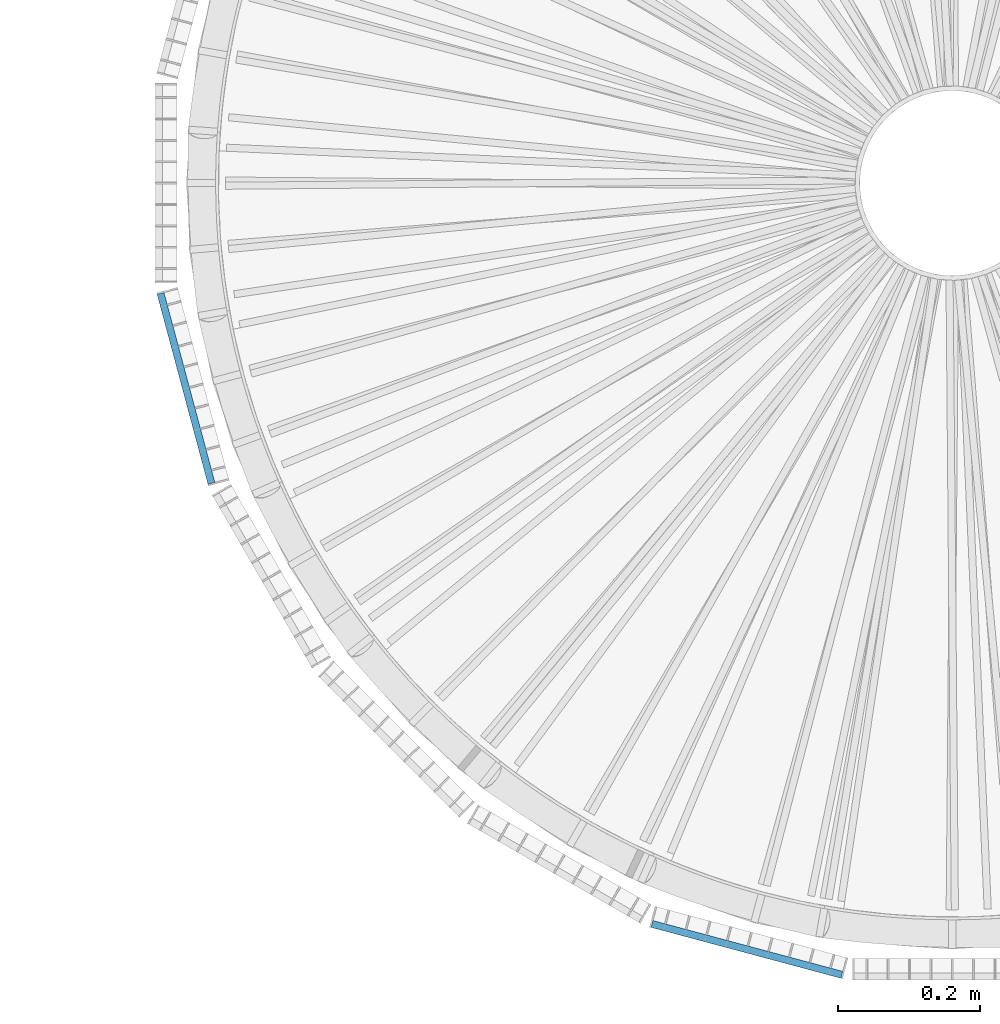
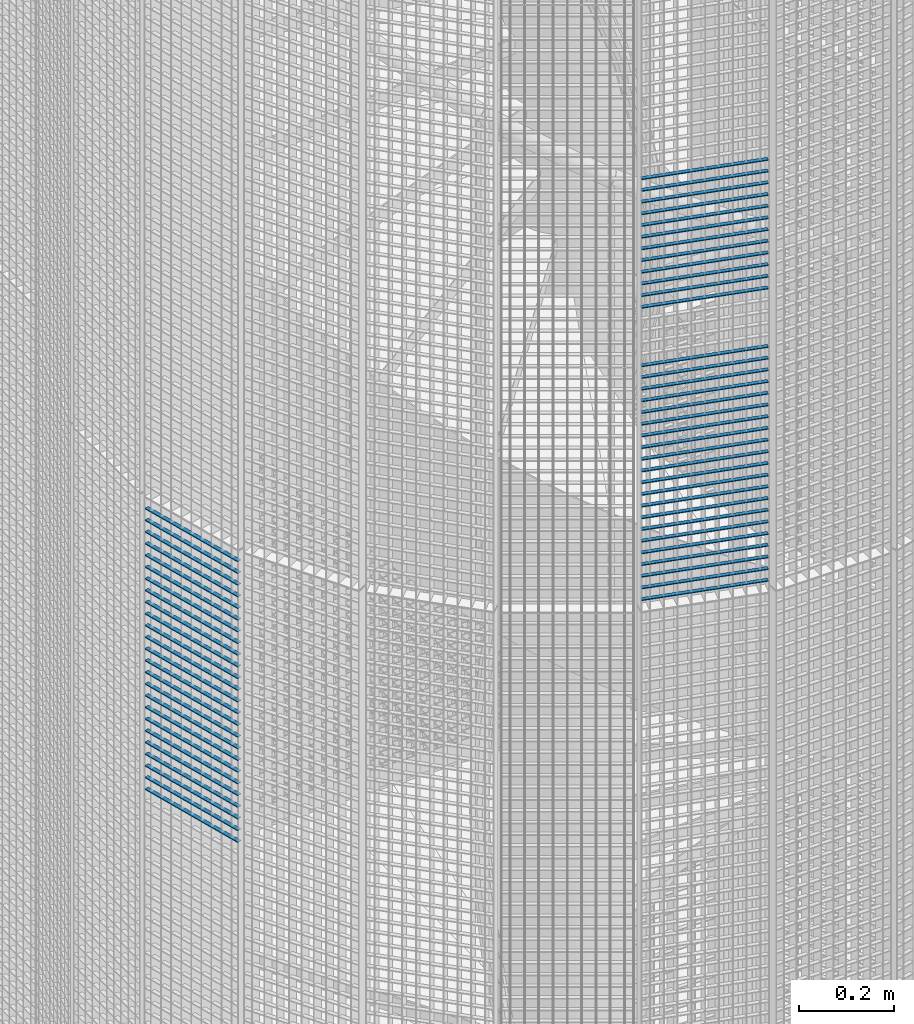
# One storey, part 353 of 1183: 58 beams, 2 elements without a shape of their own.
"""IFC2X3 building model written with IfcOpenShell, lengths in millimetres."""

from ifc_helpers import new_model, si_unit, frame, origin_with_axes, origin_2d_with_axis, place, context, subcontext, project, spatial, rectangle, extrude, material, type_object, element, aggregate, save


model = new_model("IFC2X3")

# Units and contexts
model_context = context("Model", 3, precision=1e-05, world=origin_with_axes())
body_context = subcontext(model_context, "Body", "Model", "MODEL_VIEW")
ifc_project = project(units=[si_unit("LENGTHUNIT", "METRE", prefix="MILLI"), si_unit("AREAUNIT", "SQUARE_METRE"), si_unit("VOLUMEUNIT", "CUBIC_METRE"), si_unit("MASSUNIT", "GRAM", prefix="KILO"), si_unit("TIMEUNIT", "SECOND"), si_unit("PLANEANGLEUNIT", "RADIAN"), si_unit("SOLIDANGLEUNIT", "STERADIAN"), si_unit("THERMODYNAMICTEMPERATUREUNIT", "DEGREE_CELSIUS"), si_unit("LUMINOUSINTENSITYUNIT", "LUMEN")], contexts=[model_context])

# Site, building, storey
site_placement = place(None, origin_with_axes())
site = spatial("IfcSite", under=ifc_project, at=site_placement, Name="Undefined", CompositionType="ELEMENT")
building_placement = place(site_placement, origin_with_axes())
building = spatial("IfcBuilding", under=site, at=building_placement, Name="Undefined", CompositionType="ELEMENT")
storey_placement = place(building_placement, origin_with_axes())
storey = spatial("IfcBuildingStorey", under=building, at=storey_placement, Name="Undefined", CompositionType="ELEMENT", Elevation=0.0)

# Assembly, beams
assembly_1_placement = place(storey_placement, origin_with_axes())
assembly_1 = element("IfcElementAssembly", 1, at=assembly_1_placement, inside=storey, Name="BORDURE", AssemblyPlace="NOTDEFINED", PredefinedType="NOTDEFINED")
ifc_material = material(Name="STEEL/S235JR")
beam_type = type_object("IfcBeamType", Name="PL2*10", PredefinedType="NOTDEFINED")
beam_1_placement = place(assembly_1_placement, frame((21445.1040732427, -1111.25508286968, 12630.0), z_axis=(-0.258819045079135, -0.965925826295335, 0.0), x_axis=(-0.965925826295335, 0.258819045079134, 0.0)))
beam_1 = element("IfcBeam", 2, at=beam_1_placement, type_object=beam_type, material=ifc_material, Name="ENTRETOISE", context=body_context, shape_type="SweptSolid", body=[
    extrude(rectangle(XDim=2.0, YDim=10.0, at=origin_2d_with_axis()), frame((275.999999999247, 9.09494701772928e-13, 1.53210777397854e-14), z_axis=(-1.0, 0.0, 0.0), x_axis=(0.0, -1.0, 0.0)), (0.0, 0.0, 1.0), 276.0),
])
beam_2_placement = place(assembly_1_placement, frame((21445.1040732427, -1111.25508286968, 12780.0), z_axis=(-0.258819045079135, -0.965925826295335, 0.0), x_axis=(-0.965925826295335, 0.258819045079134, 0.0)))
beam_2 = element("IfcBeam", 3, at=beam_2_placement, type_object=beam_type, material=ifc_material, Name="ENTRETOISE", context=body_context, shape_type="SweptSolid", body=[
    extrude(rectangle(XDim=2.0, YDim=10.0, at=origin_2d_with_axis()), frame((275.999999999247, 9.09494701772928e-13, 1.53210777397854e-14), z_axis=(-1.0, 0.0, 0.0), x_axis=(0.0, -1.0, 0.0)), (0.0, 0.0, 1.0), 276.0),
])
beam_3_placement = place(assembly_1_placement, frame((21445.1040732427, -1111.25508286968, 12600.0), z_axis=(-0.258819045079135, -0.965925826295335, 0.0), x_axis=(-0.965925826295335, 0.258819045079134, 0.0)))
beam_3 = element("IfcBeam", 4, at=beam_3_placement, type_object=beam_type, material=ifc_material, Name="ENTRETOISE", context=body_context, shape_type="SweptSolid", body=[
    extrude(rectangle(XDim=2.0, YDim=10.0, at=origin_2d_with_axis()), frame((275.999999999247, 9.09494701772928e-13, 1.53210777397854e-14), z_axis=(-1.0, 0.0, 0.0), x_axis=(0.0, -1.0, 0.0)), (0.0, 0.0, 1.0), 276.0),
])
beam_4_placement = place(assembly_1_placement, frame((21445.1040732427, -1111.25508286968, 12810.0), z_axis=(-0.258819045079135, -0.965925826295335, 0.0), x_axis=(-0.965925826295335, 0.258819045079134, 0.0)))
beam_4 = element("IfcBeam", 5, at=beam_4_placement, type_object=beam_type, material=ifc_material, Name="ENTRETOISE", context=body_context, shape_type="SweptSolid", body=[
    extrude(rectangle(XDim=2.0, YDim=10.0, at=origin_2d_with_axis()), frame((275.999999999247, 9.09494701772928e-13, 1.53210777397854e-14), z_axis=(-1.0, 0.0, 0.0), x_axis=(0.0, -1.0, 0.0)), (0.0, 0.0, 1.0), 276.0),
])
beam_5_placement = place(assembly_1_placement, frame((21445.1040732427, -1111.25508286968, 12570.0), z_axis=(-0.258819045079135, -0.965925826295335, 0.0), x_axis=(-0.965925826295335, 0.258819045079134, 0.0)))
beam_5 = element("IfcBeam", 6, at=beam_5_placement, type_object=beam_type, material=ifc_material, Name="ENTRETOISE", context=body_context, shape_type="SweptSolid", body=[
    extrude(rectangle(XDim=2.0, YDim=10.0, at=origin_2d_with_axis()), frame((275.999999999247, 9.09494701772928e-13, 1.53210777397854e-14), z_axis=(-1.0, 0.0, 0.0), x_axis=(0.0, -1.0, 0.0)), (0.0, 0.0, 1.0), 276.0),
])
beam_6_placement = place(assembly_1_placement, frame((21445.1040732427, -1111.25508286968, 12540.0), z_axis=(-0.258819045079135, -0.965925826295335, 0.0), x_axis=(-0.965925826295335, 0.258819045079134, 0.0)))
beam_6 = element("IfcBeam", 7, at=beam_6_placement, type_object=beam_type, material=ifc_material, Name="ENTRETOISE", context=body_context, shape_type="SweptSolid", body=[
    extrude(rectangle(XDim=2.0, YDim=10.0, at=origin_2d_with_axis()), frame((275.999999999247, 9.09494701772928e-13, 1.53210777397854e-14), z_axis=(-1.0, 0.0, 0.0), x_axis=(0.0, -1.0, 0.0)), (0.0, 0.0, 1.0), 276.0),
])
beam_7_placement = place(assembly_1_placement, frame((21445.1040732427, -1111.25508286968, 12840.0), z_axis=(-0.258819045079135, -0.965925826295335, 0.0), x_axis=(-0.965925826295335, 0.258819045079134, 0.0)))
beam_7 = element("IfcBeam", 8, at=beam_7_placement, type_object=beam_type, material=ifc_material, Name="ENTRETOISE", context=body_context, shape_type="SweptSolid", body=[
    extrude(rectangle(XDim=2.0, YDim=10.0, at=origin_2d_with_axis()), frame((275.999999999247, 9.09494701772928e-13, 1.53210777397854e-14), z_axis=(-1.0, 0.0, 0.0), x_axis=(0.0, -1.0, 0.0)), (0.0, 0.0, 1.0), 276.0),
])
beam_8_placement = place(assembly_1_placement, frame((21445.1040732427, -1111.25508286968, 12510.0), z_axis=(-0.258819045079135, -0.965925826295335, 0.0), x_axis=(-0.965925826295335, 0.258819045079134, 0.0)))
beam_8 = element("IfcBeam", 9, at=beam_8_placement, type_object=beam_type, material=ifc_material, Name="ENTRETOISE", context=body_context, shape_type="SweptSolid", body=[
    extrude(rectangle(XDim=2.0, YDim=10.0, at=origin_2d_with_axis()), frame((275.999999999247, 9.09494701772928e-13, 1.53210777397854e-14), z_axis=(-1.0, 0.0, 0.0), x_axis=(0.0, -1.0, 0.0)), (0.0, 0.0, 1.0), 276.0),
])
beam_9_placement = place(assembly_1_placement, frame((21445.1040732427, -1111.25508286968, 12480.0), z_axis=(-0.258819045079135, -0.965925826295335, 0.0), x_axis=(-0.965925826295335, 0.258819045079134, 0.0)))
beam_9 = element("IfcBeam", 10, at=beam_9_placement, type_object=beam_type, material=ifc_material, Name="ENTRETOISE", context=body_context, shape_type="SweptSolid", body=[
    extrude(rectangle(XDim=2.0, YDim=10.0, at=origin_2d_with_axis()), frame((275.999999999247, 9.09494701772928e-13, 1.53210777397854e-14), z_axis=(-1.0, 0.0, 0.0), x_axis=(0.0, -1.0, 0.0)), (0.0, 0.0, 1.0), 276.0),
])
beam_10_placement = place(assembly_1_placement, frame((21445.1040732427, -1111.25508286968, 12870.0), z_axis=(-0.258819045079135, -0.965925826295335, 0.0), x_axis=(-0.965925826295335, 0.258819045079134, 0.0)))
beam_10 = element("IfcBeam", 11, at=beam_10_placement, type_object=beam_type, material=ifc_material, Name="ENTRETOISE", context=body_context, shape_type="SweptSolid", body=[
    extrude(rectangle(XDim=2.0, YDim=10.0, at=origin_2d_with_axis()), frame((275.999999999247, 9.09494701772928e-13, 1.53210777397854e-14), z_axis=(-1.0, 0.0, 0.0), x_axis=(0.0, -1.0, 0.0)), (0.0, 0.0, 1.0), 276.0),
])
beam_11_placement = place(assembly_1_placement, frame((21445.1040732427, -1111.25508286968, 12450.0), z_axis=(-0.258819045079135, -0.965925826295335, 0.0), x_axis=(-0.965925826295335, 0.258819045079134, 0.0)))
beam_11 = element("IfcBeam", 12, at=beam_11_placement, type_object=beam_type, material=ifc_material, Name="ENTRETOISE", context=body_context, shape_type="SweptSolid", body=[
    extrude(rectangle(XDim=2.0, YDim=10.0, at=origin_2d_with_axis()), frame((275.999999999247, 9.09494701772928e-13, 1.53210777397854e-14), z_axis=(-1.0, 0.0, 0.0), x_axis=(0.0, -1.0, 0.0)), (0.0, 0.0, 1.0), 276.0),
])
beam_12_placement = place(assembly_1_placement, frame((21445.1040732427, -1111.25508286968, 12420.0), z_axis=(-0.258819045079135, -0.965925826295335, 0.0), x_axis=(-0.965925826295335, 0.258819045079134, 0.0)))
beam_12 = element("IfcBeam", 13, at=beam_12_placement, type_object=beam_type, material=ifc_material, Name="ENTRETOISE", context=body_context, shape_type="SweptSolid", body=[
    extrude(rectangle(XDim=2.0, YDim=10.0, at=origin_2d_with_axis()), frame((275.999999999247, 9.09494701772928e-13, 1.53210777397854e-14), z_axis=(-1.0, 0.0, 0.0), x_axis=(0.0, -1.0, 0.0)), (0.0, 0.0, 1.0), 276.0),
])
beam_13_placement = place(assembly_1_placement, frame((21445.1040732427, -1111.25508286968, 12900.0), z_axis=(-0.258819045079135, -0.965925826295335, 0.0), x_axis=(-0.965925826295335, 0.258819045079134, 0.0)))
beam_13 = element("IfcBeam", 14, at=beam_13_placement, type_object=beam_type, material=ifc_material, Name="ENTRETOISE", context=body_context, shape_type="SweptSolid", body=[
    extrude(rectangle(XDim=2.0, YDim=10.0, at=origin_2d_with_axis()), frame((275.999999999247, 9.09494701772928e-13, 1.53210777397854e-14), z_axis=(-1.0, 0.0, 0.0), x_axis=(0.0, -1.0, 0.0)), (0.0, 0.0, 1.0), 276.0),
])
beam_14_placement = place(assembly_1_placement, frame((21445.1040732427, -1111.25508286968, 12390.0), z_axis=(-0.258819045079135, -0.965925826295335, 0.0), x_axis=(-0.965925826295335, 0.258819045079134, 0.0)))
beam_14 = element("IfcBeam", 15, at=beam_14_placement, type_object=beam_type, material=ifc_material, Name="ENTRETOISE", context=body_context, shape_type="SweptSolid", body=[
    extrude(rectangle(XDim=2.0, YDim=10.0, at=origin_2d_with_axis()), frame((275.999999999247, 9.09494701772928e-13, 1.53210777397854e-14), z_axis=(-1.0, 0.0, 0.0), x_axis=(0.0, -1.0, 0.0)), (0.0, 0.0, 1.0), 276.0),
])
beam_15_placement = place(assembly_1_placement, frame((21445.1040732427, -1111.25508286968, 12930.0), z_axis=(-0.258819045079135, -0.965925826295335, 0.0), x_axis=(-0.965925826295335, 0.258819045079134, 0.0)))
beam_15 = element("IfcBeam", 16, at=beam_15_placement, type_object=beam_type, material=ifc_material, Name="ENTRETOISE", context=body_context, shape_type="SweptSolid", body=[
    extrude(rectangle(XDim=2.0, YDim=10.0, at=origin_2d_with_axis()), frame((275.999999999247, 9.09494701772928e-13, 1.53210777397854e-14), z_axis=(-1.0, 0.0, 0.0), x_axis=(0.0, -1.0, 0.0)), (0.0, 0.0, 1.0), 276.0),
])
beam_16_placement = place(assembly_1_placement, frame((21445.1040732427, -1111.25508286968, 12360.0), z_axis=(-0.258819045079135, -0.965925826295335, 0.0), x_axis=(-0.965925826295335, 0.258819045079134, 0.0)))
beam_16 = element("IfcBeam", 17, at=beam_16_placement, type_object=beam_type, material=ifc_material, Name="ENTRETOISE", context=body_context, shape_type="SweptSolid", body=[
    extrude(rectangle(XDim=2.0, YDim=10.0, at=origin_2d_with_axis()), frame((275.999999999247, 9.09494701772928e-13, 1.53210777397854e-14), z_axis=(-1.0, 0.0, 0.0), x_axis=(0.0, -1.0, 0.0)), (0.0, 0.0, 1.0), 276.0),
])
beam_17_placement = place(assembly_1_placement, frame((21445.1040732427, -1111.25508286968, 12330.0), z_axis=(-0.258819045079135, -0.965925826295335, 0.0), x_axis=(-0.965925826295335, 0.258819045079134, 0.0)))
beam_17 = element("IfcBeam", 18, at=beam_17_placement, type_object=beam_type, material=ifc_material, Name="ENTRETOISE", context=body_context, shape_type="SweptSolid", body=[
    extrude(rectangle(XDim=2.0, YDim=10.0, at=origin_2d_with_axis()), frame((275.999999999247, 9.09494701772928e-13, 1.53210777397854e-14), z_axis=(-1.0, 0.0, 0.0), x_axis=(0.0, -1.0, 0.0)), (0.0, 0.0, 1.0), 276.0),
])
beam_18_placement = place(assembly_1_placement, frame((21445.1040732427, -1111.25508286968, 12960.0), z_axis=(-0.258819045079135, -0.965925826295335, 0.0), x_axis=(-0.965925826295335, 0.258819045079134, 0.0)))
beam_18 = element("IfcBeam", 19, at=beam_18_placement, type_object=beam_type, material=ifc_material, Name="ENTRETOISE", context=body_context, shape_type="SweptSolid", body=[
    extrude(rectangle(XDim=2.0, YDim=10.0, at=origin_2d_with_axis()), frame((275.999999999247, 9.09494701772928e-13, 1.53210777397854e-14), z_axis=(-1.0, 0.0, 0.0), x_axis=(0.0, -1.0, 0.0)), (0.0, 0.0, 1.0), 276.0),
])
beam_19_placement = place(assembly_1_placement, frame((21445.1040732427, -1111.25508286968, 12300.0), z_axis=(-0.258819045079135, -0.965925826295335, 0.0), x_axis=(-0.965925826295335, 0.258819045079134, 0.0)))
beam_19 = element("IfcBeam", 20, at=beam_19_placement, type_object=beam_type, material=ifc_material, Name="ENTRETOISE", context=body_context, shape_type="SweptSolid", body=[
    extrude(rectangle(XDim=2.0, YDim=10.0, at=origin_2d_with_axis()), frame((275.999999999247, 9.09494701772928e-13, 1.53210777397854e-14), z_axis=(-1.0, 0.0, 0.0), x_axis=(0.0, -1.0, 0.0)), (0.0, 0.0, 1.0), 276.0),
])
beam_20_placement = place(assembly_1_placement, frame((21445.1040732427, -1111.25508286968, 12270.0), z_axis=(-0.258819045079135, -0.965925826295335, 0.0), x_axis=(-0.965925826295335, 0.258819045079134, 0.0)))
beam_20 = element("IfcBeam", 21, at=beam_20_placement, type_object=beam_type, material=ifc_material, Name="ENTRETOISE", context=body_context, shape_type="SweptSolid", body=[
    extrude(rectangle(XDim=2.0, YDim=10.0, at=origin_2d_with_axis()), frame((275.999999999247, 9.09494701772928e-13, 1.53210777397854e-14), z_axis=(-1.0, 0.0, 0.0), x_axis=(0.0, -1.0, 0.0)), (0.0, 0.0, 1.0), 276.0),
])
beam_21_placement = place(assembly_1_placement, frame((21445.1040732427, -1111.25508286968, 12990.0), z_axis=(-0.258819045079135, -0.965925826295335, 0.0), x_axis=(-0.965925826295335, 0.258819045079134, 0.0)))
beam_21 = element("IfcBeam", 22, at=beam_21_placement, type_object=beam_type, material=ifc_material, Name="ENTRETOISE", context=body_context, shape_type="SweptSolid", body=[
    extrude(rectangle(XDim=2.0, YDim=10.0, at=origin_2d_with_axis()), frame((275.999999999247, 9.09494701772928e-13, 1.53210777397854e-14), z_axis=(-1.0, 0.0, 0.0), x_axis=(0.0, -1.0, 0.0)), (0.0, 0.0, 1.0), 276.0),
])
beam_22_placement = place(assembly_1_placement, frame((21445.1040732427, -1111.25508286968, 12240.0), z_axis=(-0.258819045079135, -0.965925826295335, 0.0), x_axis=(-0.965925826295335, 0.258819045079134, 0.0)))
beam_22 = element("IfcBeam", 23, at=beam_22_placement, type_object=beam_type, material=ifc_material, Name="ENTRETOISE", context=body_context, shape_type="SweptSolid", body=[
    extrude(rectangle(XDim=2.0, YDim=10.0, at=origin_2d_with_axis()), frame((275.999999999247, 9.09494701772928e-13, 1.53210777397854e-14), z_axis=(-1.0, 0.0, 0.0), x_axis=(0.0, -1.0, 0.0)), (0.0, 0.0, 1.0), 276.0),
])
beam_23_placement = place(assembly_1_placement, frame((21445.1040732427, -1111.25508286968, 13020.0), z_axis=(-0.258819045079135, -0.965925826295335, 0.0), x_axis=(-0.965925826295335, 0.258819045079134, 0.0)))
beam_23 = element("IfcBeam", 24, at=beam_23_placement, type_object=beam_type, material=ifc_material, Name="ENTRETOISE", context=body_context, shape_type="SweptSolid", body=[
    extrude(rectangle(XDim=2.0, YDim=10.0, at=origin_2d_with_axis()), frame((275.999999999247, 9.09494701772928e-13, 1.53210777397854e-14), z_axis=(-1.0, 0.0, 0.0), x_axis=(0.0, -1.0, 0.0)), (0.0, 0.0, 1.0), 276.0),
])
beam_24_placement = place(assembly_1_placement, frame((21445.1040732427, -1111.25508286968, 12210.0), z_axis=(-0.258819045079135, -0.965925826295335, 0.0), x_axis=(-0.965925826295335, 0.258819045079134, 0.0)))
beam_24 = element("IfcBeam", 25, at=beam_24_placement, type_object=beam_type, material=ifc_material, Name="ENTRETOISE", context=body_context, shape_type="SweptSolid", body=[
    extrude(rectangle(XDim=2.0, YDim=10.0, at=origin_2d_with_axis()), frame((275.999999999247, 9.09494701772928e-13, 1.53210777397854e-14), z_axis=(-1.0, 0.0, 0.0), x_axis=(0.0, -1.0, 0.0)), (0.0, 0.0, 1.0), 276.0),
])
beam_25_placement = place(assembly_1_placement, frame((21445.1040732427, -1111.25508286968, 12180.0), z_axis=(-0.258819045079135, -0.965925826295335, 0.0), x_axis=(-0.965925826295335, 0.258819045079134, 0.0)))
beam_25 = element("IfcBeam", 26, at=beam_25_placement, type_object=beam_type, material=ifc_material, Name="ENTRETOISE", context=body_context, shape_type="SweptSolid", body=[
    extrude(rectangle(XDim=2.0, YDim=10.0, at=origin_2d_with_axis()), frame((275.999999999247, 9.09494701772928e-13, 1.53210777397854e-14), z_axis=(-1.0, 0.0, 0.0), x_axis=(0.0, -1.0, 0.0)), (0.0, 0.0, 1.0), 276.0),
])
beam_26_placement = place(assembly_1_placement, frame((21445.1040732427, -1111.25508286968, 13050.0), z_axis=(-0.258819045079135, -0.965925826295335, 0.0), x_axis=(-0.965925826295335, 0.258819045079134, 0.0)))
beam_26 = element("IfcBeam", 27, at=beam_26_placement, type_object=beam_type, material=ifc_material, Name="ENTRETOISE", context=body_context, shape_type="SweptSolid", body=[
    extrude(rectangle(XDim=2.0, YDim=10.0, at=origin_2d_with_axis()), frame((275.999999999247, 9.09494701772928e-13, 1.53210777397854e-14), z_axis=(-1.0, 0.0, 0.0), x_axis=(0.0, -1.0, 0.0)), (0.0, 0.0, 1.0), 276.0),
])
beam_27_placement = place(assembly_1_placement, frame((21445.1040732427, -1111.25508286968, 12150.0), z_axis=(-0.258819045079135, -0.965925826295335, 0.0), x_axis=(-0.965925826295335, 0.258819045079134, 0.0)))
beam_27 = element("IfcBeam", 28, at=beam_27_placement, type_object=beam_type, material=ifc_material, Name="ENTRETOISE", context=body_context, shape_type="SweptSolid", body=[
    extrude(rectangle(XDim=2.0, YDim=10.0, at=origin_2d_with_axis()), frame((275.999999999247, 9.09494701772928e-13, 1.53210777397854e-14), z_axis=(-1.0, 0.0, 0.0), x_axis=(0.0, -1.0, 0.0)), (0.0, 0.0, 1.0), 276.0),
])
beam_28_placement = place(assembly_1_placement, frame((21445.1040732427, -1111.25508286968, 12120.0), z_axis=(-0.258819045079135, -0.965925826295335, 0.0), x_axis=(-0.965925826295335, 0.258819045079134, 0.0)))
beam_28 = element("IfcBeam", 29, at=beam_28_placement, type_object=beam_type, material=ifc_material, Name="ENTRETOISE", context=body_context, shape_type="SweptSolid", body=[
    extrude(rectangle(XDim=2.0, YDim=10.0, at=origin_2d_with_axis()), frame((275.999999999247, 9.09494701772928e-13, 1.53210777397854e-14), z_axis=(-1.0, 0.0, 0.0), x_axis=(0.0, -1.0, 0.0)), (0.0, 0.0, 1.0), 276.0),
])
beam_29_placement = place(assembly_1_placement, frame((21445.1040732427, -1111.25508286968, 13080.0), z_axis=(-0.258819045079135, -0.965925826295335, 0.0), x_axis=(-0.965925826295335, 0.258819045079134, 0.0)))
beam_29 = element("IfcBeam", 30, at=beam_29_placement, type_object=beam_type, material=ifc_material, Name="ENTRETOISE", context=body_context, shape_type="SweptSolid", body=[
    extrude(rectangle(XDim=2.0, YDim=10.0, at=origin_2d_with_axis()), frame((275.999999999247, 9.09494701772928e-13, 1.53210777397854e-14), z_axis=(-1.0, 0.0, 0.0), x_axis=(0.0, -1.0, 0.0)), (0.0, 0.0, 1.0), 276.0),
])
beam_30_placement = place(assembly_1_placement, frame((21445.1040732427, -1111.25508286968, 12090.0), z_axis=(-0.258819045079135, -0.965925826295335, 0.0), x_axis=(-0.965925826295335, 0.258819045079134, 0.0)))
beam_30 = element("IfcBeam", 31, at=beam_30_placement, type_object=beam_type, material=ifc_material, Name="ENTRETOISE", context=body_context, shape_type="SweptSolid", body=[
    extrude(rectangle(XDim=2.0, YDim=10.0, at=origin_2d_with_axis()), frame((275.999999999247, 9.09494701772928e-13, 1.53210777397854e-14), z_axis=(-1.0, 0.0, 0.0), x_axis=(0.0, -1.0, 0.0)), (0.0, 0.0, 1.0), 276.0),
])
beam_31_placement = place(assembly_1_placement, frame((21445.1040732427, -1111.25508286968, 12060.0), z_axis=(-0.258819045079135, -0.965925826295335, 0.0), x_axis=(-0.965925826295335, 0.258819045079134, 0.0)))
beam_31 = element("IfcBeam", 32, at=beam_31_placement, type_object=beam_type, material=ifc_material, Name="ENTRETOISE", context=body_context, shape_type="SweptSolid", body=[
    extrude(rectangle(XDim=2.0, YDim=10.0, at=origin_2d_with_axis()), frame((275.999999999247, 9.09494701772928e-13, 1.53210777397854e-14), z_axis=(-1.0, 0.0, 0.0), x_axis=(0.0, -1.0, 0.0)), (0.0, 0.0, 1.0), 276.0),
])
beam_32_placement = place(assembly_1_placement, frame((21445.1040732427, -1111.25508286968, 13110.0), z_axis=(-0.258819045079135, -0.965925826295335, 0.0), x_axis=(-0.965925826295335, 0.258819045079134, 0.0)))
beam_32 = element("IfcBeam", 33, at=beam_32_placement, type_object=beam_type, material=ifc_material, Name="ENTRETOISE", context=body_context, shape_type="SweptSolid", body=[
    extrude(rectangle(XDim=2.0, YDim=10.0, at=origin_2d_with_axis()), frame((275.999999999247, 9.09494701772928e-13, 1.53210777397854e-14), z_axis=(-1.0, 0.0, 0.0), x_axis=(0.0, -1.0, 0.0)), (0.0, 0.0, 1.0), 276.0),
])
beam_33_placement = place(assembly_1_placement, frame((21445.1040732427, -1111.25508286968, 12030.0), z_axis=(-0.258819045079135, -0.965925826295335, 0.0), x_axis=(-0.965925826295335, 0.258819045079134, 0.0)))
beam_33 = element("IfcBeam", 34, at=beam_33_placement, type_object=beam_type, material=ifc_material, Name="ENTRETOISE", context=body_context, shape_type="SweptSolid", body=[
    extrude(rectangle(XDim=2.0, YDim=10.0, at=origin_2d_with_axis()), frame((275.999999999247, 9.09494701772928e-13, 1.53210777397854e-14), z_axis=(-1.0, 0.0, 0.0), x_axis=(0.0, -1.0, 0.0)), (0.0, 0.0, 1.0), 276.0),
])
aggregate(assembly_1, [beam_1, beam_2, beam_3, beam_4, beam_5, beam_6, beam_7, beam_8, beam_9, beam_10, beam_11, beam_12, beam_13, beam_14, beam_15, beam_16, beam_17, beam_18, beam_19, beam_20, beam_21, beam_22, beam_23, beam_24, beam_25, beam_26, beam_27, beam_28, beam_29, beam_30, beam_31, beam_32, beam_33])

assembly_2_placement = place(storey_placement, origin_with_axes())
assembly_2 = element("IfcElementAssembly", 35, at=assembly_2_placement, inside=storey, Name="BORDURE", AssemblyPlace="NOTDEFINED", PredefinedType="NOTDEFINED")
beam_34_placement = place(assembly_2_placement, frame((20560.1769047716, -421.483733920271, 11970.0), z_axis=(-0.965925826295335, -0.258819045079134, 0.0), x_axis=(-0.258819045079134, 0.965925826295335, 0.0)))
beam_34 = element("IfcBeam", 36, at=beam_34_placement, type_object=beam_type, material=ifc_material, Name="ENTRETOISE", context=body_context, shape_type="SweptSolid", body=[
    extrude(rectangle(XDim=2.0, YDim=10.0, at=origin_2d_with_axis()), frame((275.999999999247, 9.09494701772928e-13, 1.53210777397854e-14), z_axis=(-1.0, 0.0, 0.0), x_axis=(0.0, -1.0, 0.0)), (0.0, 0.0, 1.0), 276.0),
])
beam_35_placement = place(assembly_2_placement, frame((20560.1769047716, -421.483733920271, 11940.0), z_axis=(-0.965925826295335, -0.258819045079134, 0.0), x_axis=(-0.258819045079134, 0.965925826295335, 0.0)))
beam_35 = element("IfcBeam", 37, at=beam_35_placement, type_object=beam_type, material=ifc_material, Name="ENTRETOISE", context=body_context, shape_type="SweptSolid", body=[
    extrude(rectangle(XDim=2.0, YDim=10.0, at=origin_2d_with_axis()), frame((275.999999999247, 9.09494701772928e-13, 1.53210777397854e-14), z_axis=(-1.0, 0.0, 0.0), x_axis=(0.0, -1.0, 0.0)), (0.0, 0.0, 1.0), 276.0),
])
beam_36_placement = place(assembly_2_placement, frame((20560.1769047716, -421.483733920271, 11910.0), z_axis=(-0.965925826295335, -0.258819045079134, 0.0), x_axis=(-0.258819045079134, 0.965925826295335, 0.0)))
beam_36 = element("IfcBeam", 38, at=beam_36_placement, type_object=beam_type, material=ifc_material, Name="ENTRETOISE", context=body_context, shape_type="SweptSolid", body=[
    extrude(rectangle(XDim=2.0, YDim=10.0, at=origin_2d_with_axis()), frame((275.999999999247, 9.09494701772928e-13, 1.53210777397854e-14), z_axis=(-1.0, 0.0, 0.0), x_axis=(0.0, -1.0, 0.0)), (0.0, 0.0, 1.0), 276.0),
])
beam_37_placement = place(assembly_2_placement, frame((20560.1769047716, -421.483733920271, 11880.0), z_axis=(-0.965925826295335, -0.258819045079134, 0.0), x_axis=(-0.258819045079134, 0.965925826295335, 0.0)))
beam_37 = element("IfcBeam", 39, at=beam_37_placement, type_object=beam_type, material=ifc_material, Name="ENTRETOISE", context=body_context, shape_type="SweptSolid", body=[
    extrude(rectangle(XDim=2.0, YDim=10.0, at=origin_2d_with_axis()), frame((275.999999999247, 9.09494701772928e-13, 1.53210777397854e-14), z_axis=(-1.0, 0.0, 0.0), x_axis=(0.0, -1.0, 0.0)), (0.0, 0.0, 1.0), 276.0),
])
beam_38_placement = place(assembly_2_placement, frame((20560.1769047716, -421.483733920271, 11850.0), z_axis=(-0.965925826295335, -0.258819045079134, 0.0), x_axis=(-0.258819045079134, 0.965925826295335, 0.0)))
beam_38 = element("IfcBeam", 40, at=beam_38_placement, type_object=beam_type, material=ifc_material, Name="ENTRETOISE", context=body_context, shape_type="SweptSolid", body=[
    extrude(rectangle(XDim=2.0, YDim=10.0, at=origin_2d_with_axis()), frame((275.999999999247, 9.09494701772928e-13, 1.53210777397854e-14), z_axis=(-1.0, 0.0, 0.0), x_axis=(0.0, -1.0, 0.0)), (0.0, 0.0, 1.0), 276.0),
])
beam_39_placement = place(assembly_2_placement, frame((20560.1769047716, -421.483733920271, 11820.0), z_axis=(-0.965925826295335, -0.258819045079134, 0.0), x_axis=(-0.258819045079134, 0.965925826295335, 0.0)))
beam_39 = element("IfcBeam", 41, at=beam_39_placement, type_object=beam_type, material=ifc_material, Name="ENTRETOISE", context=body_context, shape_type="SweptSolid", body=[
    extrude(rectangle(XDim=2.0, YDim=10.0, at=origin_2d_with_axis()), frame((275.999999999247, 9.09494701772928e-13, 1.53210777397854e-14), z_axis=(-1.0, 0.0, 0.0), x_axis=(0.0, -1.0, 0.0)), (0.0, 0.0, 1.0), 276.0),
])
beam_40_placement = place(assembly_2_placement, frame((20560.1769047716, -421.483733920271, 11790.0), z_axis=(-0.965925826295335, -0.258819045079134, 0.0), x_axis=(-0.258819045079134, 0.965925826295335, 0.0)))
beam_40 = element("IfcBeam", 42, at=beam_40_placement, type_object=beam_type, material=ifc_material, Name="ENTRETOISE", context=body_context, shape_type="SweptSolid", body=[
    extrude(rectangle(XDim=2.0, YDim=10.0, at=origin_2d_with_axis()), frame((275.999999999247, 9.09494701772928e-13, 1.53210777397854e-14), z_axis=(-1.0, 0.0, 0.0), x_axis=(0.0, -1.0, 0.0)), (0.0, 0.0, 1.0), 276.0),
])
beam_41_placement = place(assembly_2_placement, frame((20560.1769047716, -421.483733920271, 11760.0), z_axis=(-0.965925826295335, -0.258819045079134, 0.0), x_axis=(-0.258819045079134, 0.965925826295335, 0.0)))
beam_41 = element("IfcBeam", 43, at=beam_41_placement, type_object=beam_type, material=ifc_material, Name="ENTRETOISE", context=body_context, shape_type="SweptSolid", body=[
    extrude(rectangle(XDim=2.0, YDim=10.0, at=origin_2d_with_axis()), frame((275.999999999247, 9.09494701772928e-13, 1.53210777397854e-14), z_axis=(-1.0, 0.0, 0.0), x_axis=(0.0, -1.0, 0.0)), (0.0, 0.0, 1.0), 276.0),
])
beam_42_placement = place(assembly_2_placement, frame((20560.1769047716, -421.48373392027, 11730.0), z_axis=(-0.965925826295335, -0.258819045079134, 0.0), x_axis=(-0.258819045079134, 0.965925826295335, 0.0)))
beam_42 = element("IfcBeam", 44, at=beam_42_placement, type_object=beam_type, material=ifc_material, Name="ENTRETOISE", context=body_context, shape_type="SweptSolid", body=[
    extrude(rectangle(XDim=2.0, YDim=10.0, at=origin_2d_with_axis()), frame((275.999999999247, 9.09494701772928e-13, 1.53210777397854e-14), z_axis=(-1.0, 0.0, 0.0), x_axis=(0.0, -1.0, 0.0)), (0.0, 0.0, 1.0), 276.0),
])
beam_43_placement = place(assembly_2_placement, frame((20560.1769047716, -421.48373392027, 11700.0), z_axis=(-0.965925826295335, -0.258819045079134, 0.0), x_axis=(-0.258819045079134, 0.965925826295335, 0.0)))
beam_43 = element("IfcBeam", 45, at=beam_43_placement, type_object=beam_type, material=ifc_material, Name="ENTRETOISE", context=body_context, shape_type="SweptSolid", body=[
    extrude(rectangle(XDim=2.0, YDim=10.0, at=origin_2d_with_axis()), frame((275.999999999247, 9.09494701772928e-13, 1.53210777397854e-14), z_axis=(-1.0, 0.0, 0.0), x_axis=(0.0, -1.0, 0.0)), (0.0, 0.0, 1.0), 276.0),
])
beam_44_placement = place(assembly_2_placement, frame((20560.1769047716, -421.48373392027, 11670.0), z_axis=(-0.965925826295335, -0.258819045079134, 0.0), x_axis=(-0.258819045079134, 0.965925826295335, 0.0)))
beam_44 = element("IfcBeam", 46, at=beam_44_placement, type_object=beam_type, material=ifc_material, Name="ENTRETOISE", context=body_context, shape_type="SweptSolid", body=[
    extrude(rectangle(XDim=2.0, YDim=10.0, at=origin_2d_with_axis()), frame((275.999999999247, 9.09494701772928e-13, 1.53210777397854e-14), z_axis=(-1.0, 0.0, 0.0), x_axis=(0.0, -1.0, 0.0)), (0.0, 0.0, 1.0), 276.0),
])
beam_45_placement = place(assembly_2_placement, frame((20560.1769047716, -421.48373392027, 11640.0), z_axis=(-0.965925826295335, -0.258819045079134, 0.0), x_axis=(-0.258819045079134, 0.965925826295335, 0.0)))
beam_45 = element("IfcBeam", 47, at=beam_45_placement, type_object=beam_type, material=ifc_material, Name="ENTRETOISE", context=body_context, shape_type="SweptSolid", body=[
    extrude(rectangle(XDim=2.0, YDim=10.0, at=origin_2d_with_axis()), frame((275.999999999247, 9.09494701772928e-13, 1.53210777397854e-14), z_axis=(-1.0, 0.0, 0.0), x_axis=(0.0, -1.0, 0.0)), (0.0, 0.0, 1.0), 276.0),
])
beam_46_placement = place(assembly_2_placement, frame((20560.1769047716, -421.48373392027, 11610.0), z_axis=(-0.965925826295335, -0.258819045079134, 0.0), x_axis=(-0.258819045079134, 0.965925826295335, 0.0)))
beam_46 = element("IfcBeam", 48, at=beam_46_placement, type_object=beam_type, material=ifc_material, Name="ENTRETOISE", context=body_context, shape_type="SweptSolid", body=[
    extrude(rectangle(XDim=2.0, YDim=10.0, at=origin_2d_with_axis()), frame((275.999999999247, 9.09494701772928e-13, 1.53210777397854e-14), z_axis=(-1.0, 0.0, 0.0), x_axis=(0.0, -1.0, 0.0)), (0.0, 0.0, 1.0), 276.0),
])
beam_47_placement = place(assembly_2_placement, frame((20560.1769047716, -421.48373392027, 11580.0), z_axis=(-0.965925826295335, -0.258819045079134, 0.0), x_axis=(-0.258819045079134, 0.965925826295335, 0.0)))
beam_47 = element("IfcBeam", 49, at=beam_47_placement, type_object=beam_type, material=ifc_material, Name="ENTRETOISE", context=body_context, shape_type="SweptSolid", body=[
    extrude(rectangle(XDim=2.0, YDim=10.0, at=origin_2d_with_axis()), frame((275.999999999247, 9.09494701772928e-13, 1.53210777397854e-14), z_axis=(-1.0, 0.0, 0.0), x_axis=(0.0, -1.0, 0.0)), (0.0, 0.0, 1.0), 276.0),
])
beam_48_placement = place(assembly_2_placement, frame((20560.1769047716, -421.48373392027, 11550.0), z_axis=(-0.965925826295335, -0.258819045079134, 0.0), x_axis=(-0.258819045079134, 0.965925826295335, 0.0)))
beam_48 = element("IfcBeam", 50, at=beam_48_placement, type_object=beam_type, material=ifc_material, Name="ENTRETOISE", context=body_context, shape_type="SweptSolid", body=[
    extrude(rectangle(XDim=2.0, YDim=10.0, at=origin_2d_with_axis()), frame((275.999999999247, 9.09494701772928e-13, 1.53210777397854e-14), z_axis=(-1.0, 0.0, 0.0), x_axis=(0.0, -1.0, 0.0)), (0.0, 0.0, 1.0), 276.0),
])
beam_49_placement = place(assembly_2_placement, frame((20560.1769047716, -421.48373392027, 11520.0), z_axis=(-0.965925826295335, -0.258819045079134, 0.0), x_axis=(-0.258819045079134, 0.965925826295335, 0.0)))
beam_49 = element("IfcBeam", 51, at=beam_49_placement, type_object=beam_type, material=ifc_material, Name="ENTRETOISE", context=body_context, shape_type="SweptSolid", body=[
    extrude(rectangle(XDim=2.0, YDim=10.0, at=origin_2d_with_axis()), frame((275.999999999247, 9.09494701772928e-13, 1.53210777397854e-14), z_axis=(-1.0, 0.0, 0.0), x_axis=(0.0, -1.0, 0.0)), (0.0, 0.0, 1.0), 276.0),
])
beam_50_placement = place(assembly_2_placement, frame((20560.1769047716, -421.48373392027, 11490.0), z_axis=(-0.965925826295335, -0.258819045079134, 0.0), x_axis=(-0.258819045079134, 0.965925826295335, 0.0)))
beam_50 = element("IfcBeam", 52, at=beam_50_placement, type_object=beam_type, material=ifc_material, Name="ENTRETOISE", context=body_context, shape_type="SweptSolid", body=[
    extrude(rectangle(XDim=2.0, YDim=10.0, at=origin_2d_with_axis()), frame((275.999999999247, 9.09494701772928e-13, 1.53210777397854e-14), z_axis=(-1.0, 0.0, 0.0), x_axis=(0.0, -1.0, 0.0)), (0.0, 0.0, 1.0), 276.0),
])
beam_51_placement = place(assembly_2_placement, frame((20560.1769047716, -421.483733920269, 11460.0), z_axis=(-0.965925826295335, -0.258819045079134, 0.0), x_axis=(-0.258819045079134, 0.965925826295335, 0.0)))
beam_51 = element("IfcBeam", 53, at=beam_51_placement, type_object=beam_type, material=ifc_material, Name="ENTRETOISE", context=body_context, shape_type="SweptSolid", body=[
    extrude(rectangle(XDim=2.0, YDim=10.0, at=origin_2d_with_axis()), frame((275.999999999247, 9.09494701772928e-13, 1.53210777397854e-14), z_axis=(-1.0, 0.0, 0.0), x_axis=(0.0, -1.0, 0.0)), (0.0, 0.0, 1.0), 276.0),
])
beam_52_placement = place(assembly_2_placement, frame((20560.1769047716, -421.483733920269, 11430.0), z_axis=(-0.965925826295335, -0.258819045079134, 0.0), x_axis=(-0.258819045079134, 0.965925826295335, 0.0)))
beam_52 = element("IfcBeam", 54, at=beam_52_placement, type_object=beam_type, material=ifc_material, Name="ENTRETOISE", context=body_context, shape_type="SweptSolid", body=[
    extrude(rectangle(XDim=2.0, YDim=10.0, at=origin_2d_with_axis()), frame((275.999999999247, 9.09494701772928e-13, 1.53210777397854e-14), z_axis=(-1.0, 0.0, 0.0), x_axis=(0.0, -1.0, 0.0)), (0.0, 0.0, 1.0), 276.0),
])
beam_53_placement = place(assembly_2_placement, frame((20560.1769047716, -421.483733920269, 11400.0), z_axis=(-0.965925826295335, -0.258819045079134, 0.0), x_axis=(-0.258819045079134, 0.965925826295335, 0.0)))
beam_53 = element("IfcBeam", 55, at=beam_53_placement, type_object=beam_type, material=ifc_material, Name="ENTRETOISE", context=body_context, shape_type="SweptSolid", body=[
    extrude(rectangle(XDim=2.0, YDim=10.0, at=origin_2d_with_axis()), frame((275.999999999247, 9.09494701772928e-13, 1.53210777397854e-14), z_axis=(-1.0, 0.0, 0.0), x_axis=(0.0, -1.0, 0.0)), (0.0, 0.0, 1.0), 276.0),
])
beam_54_placement = place(assembly_2_placement, frame((20560.1769047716, -421.483733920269, 11370.0), z_axis=(-0.965925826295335, -0.258819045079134, 0.0), x_axis=(-0.258819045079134, 0.965925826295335, 0.0)))
beam_54 = element("IfcBeam", 56, at=beam_54_placement, type_object=beam_type, material=ifc_material, Name="ENTRETOISE", context=body_context, shape_type="SweptSolid", body=[
    extrude(rectangle(XDim=2.0, YDim=10.0, at=origin_2d_with_axis()), frame((275.999999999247, 9.09494701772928e-13, 1.53210777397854e-14), z_axis=(-1.0, 0.0, 0.0), x_axis=(0.0, -1.0, 0.0)), (0.0, 0.0, 1.0), 276.0),
])
beam_55_placement = place(assembly_2_placement, frame((20560.1769047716, -421.483733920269, 11340.0), z_axis=(-0.965925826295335, -0.258819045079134, 0.0), x_axis=(-0.258819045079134, 0.965925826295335, 0.0)))
beam_55 = element("IfcBeam", 57, at=beam_55_placement, type_object=beam_type, material=ifc_material, Name="ENTRETOISE", context=body_context, shape_type="SweptSolid", body=[
    extrude(rectangle(XDim=2.0, YDim=10.0, at=origin_2d_with_axis()), frame((275.999999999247, 9.09494701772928e-13, 1.53210777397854e-14), z_axis=(-1.0, 0.0, 0.0), x_axis=(0.0, -1.0, 0.0)), (0.0, 0.0, 1.0), 276.0),
])
beam_56_placement = place(assembly_2_placement, frame((20560.1769047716, -421.483733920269, 11310.0), z_axis=(-0.965925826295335, -0.258819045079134, 0.0), x_axis=(-0.258819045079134, 0.965925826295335, 0.0)))
beam_56 = element("IfcBeam", 58, at=beam_56_placement, type_object=beam_type, material=ifc_material, Name="ENTRETOISE", context=body_context, shape_type="SweptSolid", body=[
    extrude(rectangle(XDim=2.0, YDim=10.0, at=origin_2d_with_axis()), frame((275.999999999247, 9.09494701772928e-13, 1.53210777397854e-14), z_axis=(-1.0, 0.0, 0.0), x_axis=(0.0, -1.0, 0.0)), (0.0, 0.0, 1.0), 276.0),
])
beam_57_placement = place(assembly_2_placement, frame((20560.1769047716, -421.483733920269, 11280.0), z_axis=(-0.965925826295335, -0.258819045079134, 0.0), x_axis=(-0.258819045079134, 0.965925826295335, 0.0)))
beam_57 = element("IfcBeam", 59, at=beam_57_placement, type_object=beam_type, material=ifc_material, Name="ENTRETOISE", context=body_context, shape_type="SweptSolid", body=[
    extrude(rectangle(XDim=2.0, YDim=10.0, at=origin_2d_with_axis()), frame((275.999999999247, 9.09494701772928e-13, 1.53210777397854e-14), z_axis=(-1.0, 0.0, 0.0), x_axis=(0.0, -1.0, 0.0)), (0.0, 0.0, 1.0), 276.0),
])
beam_58_placement = place(assembly_2_placement, frame((20560.1769047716, -421.483733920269, 11250.0), z_axis=(-0.965925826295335, -0.258819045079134, 0.0), x_axis=(-0.258819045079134, 0.965925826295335, 0.0)))
beam_58 = element("IfcBeam", 60, at=beam_58_placement, type_object=beam_type, material=ifc_material, Name="ENTRETOISE", context=body_context, shape_type="SweptSolid", body=[
    extrude(rectangle(XDim=2.0, YDim=10.0, at=origin_2d_with_axis()), frame((275.999999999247, 9.09494701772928e-13, 1.53210777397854e-14), z_axis=(-1.0, 0.0, 0.0), x_axis=(0.0, -1.0, 0.0)), (0.0, 0.0, 1.0), 276.0),
])
aggregate(assembly_2, [beam_34, beam_35, beam_36, beam_37, beam_38, beam_39, beam_40, beam_41, beam_42, beam_43, beam_44, beam_45, beam_46, beam_47, beam_48, beam_49, beam_50, beam_51, beam_52, beam_53, beam_54, beam_55, beam_56, beam_57, beam_58])

save(model, "model.ifc")
